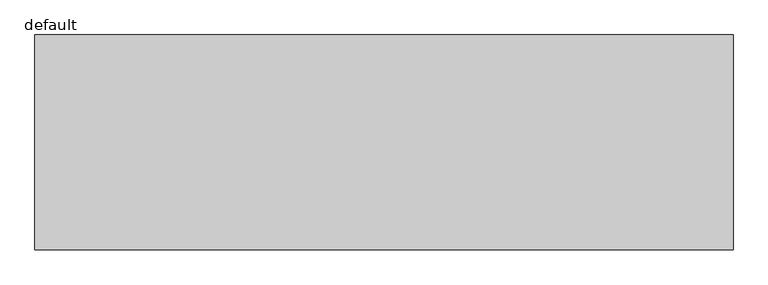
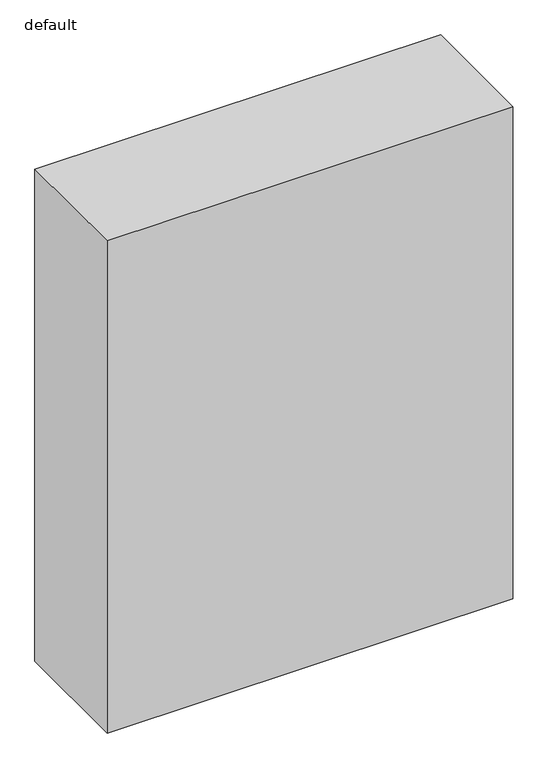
"""IFC4 building model written with IfcOpenShell, lengths in millimetres: furniture geometry, Fu_шкаф встроенный_LEG : default."""

from ifc_helpers import new_model, si_unit, origin, origin_with_axes, place, context, project, spatial, polyline, outline, extrude, source, transform, mapped, element, save


def default_5f957f71(model_context):
    return source(origin(), model_context, "Body", "SweptSolid", [
        extrude(outline(polyline([(1950.0, 0.0), (0.0, 0.0), (0.0, 600.0), (1950.0, 600.0), (1950.0, 0.0)])), origin_with_axes(), (0.0, 0.0, 1.0), 2500.0),
    ])


if __name__ == "__main__":
    model = new_model("IFC4")
    model_context = context("Model", 3, world=origin())
    ifc_project = project(units=[si_unit("LENGTHUNIT", "METRE", prefix="MILLI")], contexts=[model_context])
    site = spatial("IfcSite", under=ifc_project)
    building = spatial("IfcBuilding", under=site)
    placement = place(None, origin())
    default_shape = default_5f957f71(model_context)
    element("IfcFurniture", 1, ObjectType="Fu_шкаф встроенный_LEG : default", at=placement, inside=building, context=model_context, shape_type="MappedRepresentation", body=[
        mapped(default_shape, transform((0.0, 0.0, 0.0), x_axis=(1.0, 0.0, 0.0), y_axis=(0.0, 1.0, 0.0), z_axis=(0.0, 0.0, 1.0))),
    ])
    save(model, "model.ifc")
